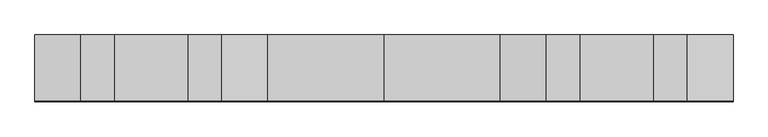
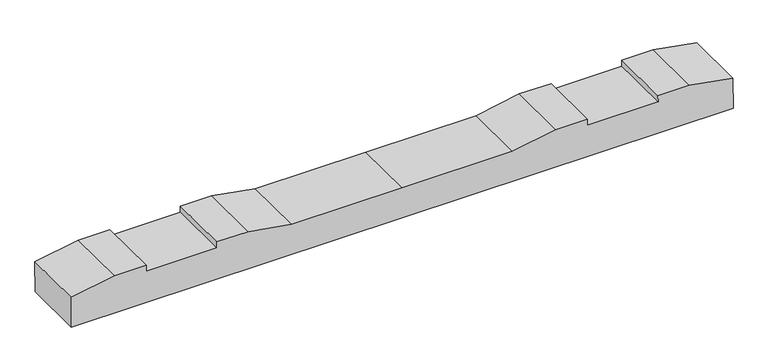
"""IFC4 building model written with IfcOpenShell, lengths in millimetres: proxy geometry, 轨枕-立面角度 : 轨枕-立面角度."""

from ifc_helpers import new_model, si_unit, frame, origin, place, context, project, spatial, polyline, outline, extrude, source, transform, mapped, element, save


def generic_models_01f94ae9(model_context):
    return source(origin(), model_context, "Body", "SweptSolid", [
        extrude(outline(polyline([(0.0, 0.0), (0.0, -100.020689), (-137.8834664, -124.5000001), (-237.8834664, -124.5000001), (-237.8834664, -104.5), (-461.8834664, -104.5), (-461.8834664, -124.5000001), (-561.8834664, -124.5000001), (-699.8834664, -100.0), (-1049.8834664, -100.0), (-1399.8834664, -100.0), (-1537.8834664, -124.5000001), (-1637.8834664, -124.5000001), (-1637.8834664, -104.5), (-1861.8834664, -104.5), (-1861.8834664, -124.5000001), (-1961.8834664, -124.5000001), (-2099.7669328, -100.020689), (-2099.7669328, 0.0), (0.0, 0.0)])), frame((-1049.8834664, 99.2718462, -105.19197), z_axis=(0.0, -0.9999758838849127, 0.00694490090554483), x_axis=(-1.0, 0.0, 0.0)), (0.0, 0.0, 1.0), 200.0),
    ])


if __name__ == "__main__":
    model = new_model("IFC4")
    model_context = context("Model", 3, world=origin())
    ifc_project = project(units=[si_unit("LENGTHUNIT", "METRE", prefix="MILLI")], contexts=[model_context])
    site = spatial("IfcSite", under=ifc_project)
    building = spatial("IfcBuilding", under=site)
    placement = place(None, origin())
    generic_models_shape = generic_models_01f94ae9(model_context)
    element("IfcBuildingElementProxy", 1, Name="轨枕-立面角度 : 轨枕-立面角度", ObjectType="轨枕-立面角度 : 轨枕-立面角度", at=placement, inside=building, context=model_context, shape_type="MappedRepresentation", body=[
        mapped(generic_models_shape, transform((0.0, 0.0, 0.0), x_axis=(1.0, 0.0, 0.0), y_axis=(0.0, 1.0, 0.0), z_axis=(0.0, 0.0, 1.0))),
    ])
    save(model, "model.ifc")
